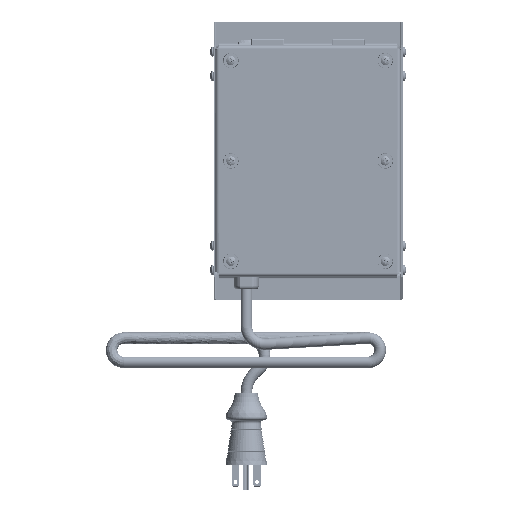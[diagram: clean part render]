
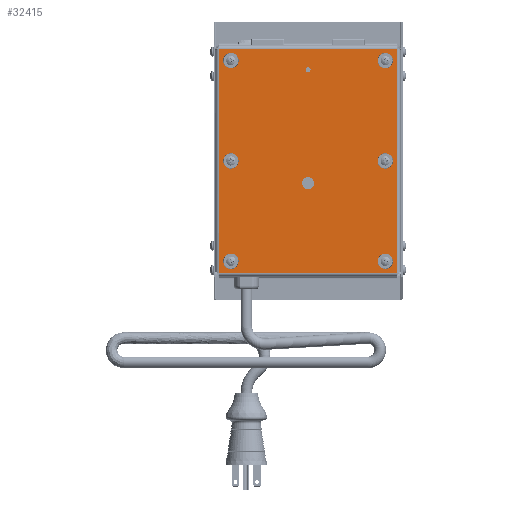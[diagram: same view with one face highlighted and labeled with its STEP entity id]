
A CAD part, front view. The second image highlights one B-rep face of the part: STEP entity #32415.
In plain terms, the highlighted planar face has unit normal (0, -1, 0).
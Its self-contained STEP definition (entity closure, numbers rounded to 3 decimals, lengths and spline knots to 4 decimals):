
#312=CIRCLE('',#33988,0.1065);
#314=CIRCLE('',#33991,0.1065);
#316=CIRCLE('',#33994,0.1065);
#318=CIRCLE('',#33997,0.0815);
#320=CIRCLE('',#34000,0.1065);
#322=CIRCLE('',#34003,0.1065);
#324=CIRCLE('',#34006,0.1065);
#326=CIRCLE('',#34009,0.1925);
#2219=FACE_BOUND('',#6359,.T.);
#2220=FACE_BOUND('',#6360,.T.);
#2221=FACE_BOUND('',#6361,.T.);
#2222=FACE_BOUND('',#6362,.T.);
#2223=FACE_BOUND('',#6363,.T.);
#2224=FACE_BOUND('',#6364,.T.);
#2225=FACE_BOUND('',#6365,.T.);
#2226=FACE_BOUND('',#6366,.T.);
#4637=FACE_OUTER_BOUND('',#6358,.T.);
#6358=EDGE_LOOP('',(#25031,#25032,#25033,#25034));
#6359=EDGE_LOOP('',(#25035));
#6360=EDGE_LOOP('',(#25036));
#6361=EDGE_LOOP('',(#25037));
#6362=EDGE_LOOP('',(#25038));
#6363=EDGE_LOOP('',(#25039));
#6364=EDGE_LOOP('',(#25040));
#6365=EDGE_LOOP('',(#25041));
#6366=EDGE_LOOP('',(#25042));
#9780=LINE('',#50619,#12496);
#9805=LINE('',#50846,#12521);
#9818=LINE('',#50953,#12534);
#9819=LINE('',#50955,#12535);
#12496=VECTOR('',#38951,0.3937);
#12521=VECTOR('',#39012,0.3937);
#12534=VECTOR('',#39059,0.3937);
#12535=VECTOR('',#39062,0.3937);
#14877=VERTEX_POINT('',#50222);
#14879=VERTEX_POINT('',#50228);
#14881=VERTEX_POINT('',#50234);
#14883=VERTEX_POINT('',#50240);
#14885=VERTEX_POINT('',#50246);
#14887=VERTEX_POINT('',#50252);
#14889=VERTEX_POINT('',#50258);
#14891=VERTEX_POINT('',#50264);
#14980=VERTEX_POINT('',#50610);
#14981=VERTEX_POINT('',#50618);
#14995=VERTEX_POINT('',#50837);
#14996=VERTEX_POINT('',#50845);
#18388=EDGE_CURVE('',#14877,#14877,#312,.T.);
#18391=EDGE_CURVE('',#14879,#14879,#314,.T.);
#18394=EDGE_CURVE('',#14881,#14881,#316,.T.);
#18397=EDGE_CURVE('',#14883,#14883,#318,.T.);
#18400=EDGE_CURVE('',#14885,#14885,#320,.T.);
#18403=EDGE_CURVE('',#14887,#14887,#322,.T.);
#18406=EDGE_CURVE('',#14889,#14889,#324,.T.);
#18409=EDGE_CURVE('',#14891,#14891,#326,.T.);
#18556=EDGE_CURVE('',#14981,#14980,#9780,.T.);
#18593=EDGE_CURVE('',#14996,#14995,#9805,.T.);
#18617=EDGE_CURVE('',#14995,#14981,#9818,.T.);
#18618=EDGE_CURVE('',#14980,#14996,#9819,.T.);
#25031=ORIENTED_EDGE('',*,*,#18556,.T.);
#25032=ORIENTED_EDGE('',*,*,#18618,.T.);
#25033=ORIENTED_EDGE('',*,*,#18593,.T.);
#25034=ORIENTED_EDGE('',*,*,#18617,.T.);
#25035=ORIENTED_EDGE('',*,*,#18388,.T.);
#25036=ORIENTED_EDGE('',*,*,#18391,.T.);
#25037=ORIENTED_EDGE('',*,*,#18394,.T.);
#25038=ORIENTED_EDGE('',*,*,#18397,.T.);
#25039=ORIENTED_EDGE('',*,*,#18400,.T.);
#25040=ORIENTED_EDGE('',*,*,#18403,.T.);
#25041=ORIENTED_EDGE('',*,*,#18406,.T.);
#25042=ORIENTED_EDGE('',*,*,#18409,.T.);
#30598=PLANE('',#34128);
#32415=ADVANCED_FACE('',(#4637,#2219,#2220,#2221,#2222,#2223,#2224,#2225,
#2226),#30598,.F.);
#33988=AXIS2_PLACEMENT_3D('',#50223,#38620,#38621);
#33991=AXIS2_PLACEMENT_3D('',#50229,#38627,#38628);
#33994=AXIS2_PLACEMENT_3D('',#50235,#38634,#38635);
#33997=AXIS2_PLACEMENT_3D('',#50241,#38641,#38642);
#34000=AXIS2_PLACEMENT_3D('',#50247,#38648,#38649);
#34003=AXIS2_PLACEMENT_3D('',#50253,#38655,#38656);
#34006=AXIS2_PLACEMENT_3D('',#50259,#38662,#38663);
#34009=AXIS2_PLACEMENT_3D('',#50265,#38669,#38670);
#34128=AXIS2_PLACEMENT_3D('',#50954,#39060,#39061);
#38620=DIRECTION('center_axis',(0.,1.,0.));
#38621=DIRECTION('ref_axis',(-1.,0.,0.));
#38627=DIRECTION('center_axis',(0.,1.,0.));
#38628=DIRECTION('ref_axis',(-1.,0.,0.));
#38634=DIRECTION('center_axis',(0.,1.,0.));
#38635=DIRECTION('ref_axis',(-1.,0.,0.));
#38641=DIRECTION('center_axis',(0.,1.,0.));
#38642=DIRECTION('ref_axis',(-1.,0.,0.));
#38648=DIRECTION('center_axis',(0.,1.,0.));
#38649=DIRECTION('ref_axis',(-1.,0.,0.));
#38655=DIRECTION('center_axis',(0.,1.,0.));
#38656=DIRECTION('ref_axis',(-1.,0.,0.));
#38662=DIRECTION('center_axis',(0.,1.,0.));
#38663=DIRECTION('ref_axis',(-1.,0.,0.));
#38669=DIRECTION('center_axis',(0.,1.,0.));
#38670=DIRECTION('ref_axis',(-1.,0.,0.));
#38951=DIRECTION('',(0.,0.,-1.));
#39012=DIRECTION('',(0.,0.,1.));
#39059=DIRECTION('',(-1.,0.,0.));
#39060=DIRECTION('center_axis',(0.,1.,0.));
#39061=DIRECTION('ref_axis',(0.,0.,1.));
#39062=DIRECTION('',(1.,0.,0.));
#50222=CARTESIAN_POINT('',(-2.3935,0.,3.25));
#50223=CARTESIAN_POINT('Origin',(-2.5,0.,3.25));
#50228=CARTESIAN_POINT('',(2.6065,0.,0.));
#50229=CARTESIAN_POINT('Origin',(2.5,0.,0.));
#50234=CARTESIAN_POINT('',(-2.3935,0.,-3.25));
#50235=CARTESIAN_POINT('Origin',(-2.5,0.,-3.25));
#50240=CARTESIAN_POINT('',(0.0815,0.,2.953));
#50241=CARTESIAN_POINT('Origin',(0.,0.,2.953));
#50246=CARTESIAN_POINT('',(-2.3935,0.,0.));
#50247=CARTESIAN_POINT('Origin',(-2.5,0.,0.));
#50252=CARTESIAN_POINT('',(2.6065,0.,-3.25));
#50253=CARTESIAN_POINT('Origin',(2.5,0.,-3.25));
#50258=CARTESIAN_POINT('',(2.6065,0.,3.25));
#50259=CARTESIAN_POINT('Origin',(2.5,0.,3.25));
#50264=CARTESIAN_POINT('',(0.1925,0.,-0.721));
#50265=CARTESIAN_POINT('Origin',(0.,0.,-0.721));
#50610=CARTESIAN_POINT('',(-2.8804,0.,-3.6304));
#50618=CARTESIAN_POINT('',(-2.8804,0.,3.6304));
#50619=CARTESIAN_POINT('',(-2.8804,0.,1.8152));
#50837=CARTESIAN_POINT('',(2.8804,0.,3.6304));
#50845=CARTESIAN_POINT('',(2.8804,0.,-3.6304));
#50846=CARTESIAN_POINT('',(2.8804,0.,-1.8152));
#50953=CARTESIAN_POINT('',(1.5,0.,3.6304));
#50954=CARTESIAN_POINT('Origin',(0.,0.,0.));
#50955=CARTESIAN_POINT('',(-1.5,0.,-3.6304));
